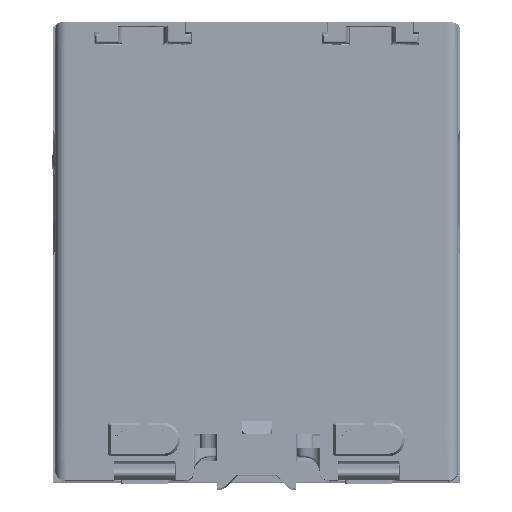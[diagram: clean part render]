
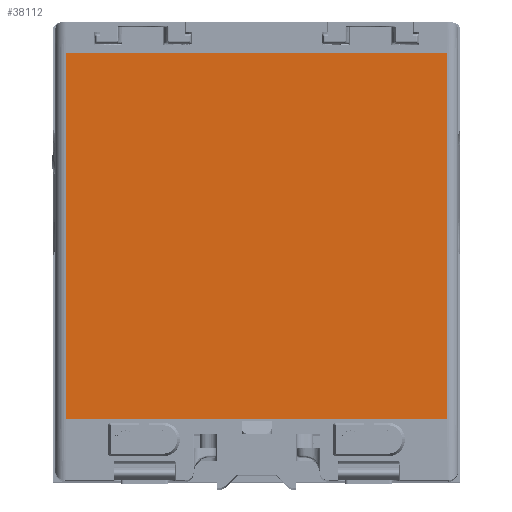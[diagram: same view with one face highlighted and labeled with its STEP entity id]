
A CAD part, top view. The second image highlights one B-rep face of the part: STEP entity #38112.
In plain terms, the highlighted planar face has unit normal (0, 0, 1) as drawn and (1, 0, 0) by its records, which use the part's own axes.
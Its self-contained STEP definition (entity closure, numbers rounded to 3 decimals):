
#306 = EDGE_CURVE ( 'NONE', #113479, #41629, #35973, .T. ) ;
#770 = LINE ( 'NONE', #118629, #49717 ) ;
#2659 = CARTESIAN_POINT ( 'NONE',  ( 27.371, 71., -37. ) ) ;
#12638 = ORIENTED_EDGE ( 'NONE', *, *, #43142, .F. ) ;
#14580 = FACE_OUTER_BOUND ( 'NONE', #87414, .T. ) ;
#14975 = VECTOR ( 'NONE', #100861, 1000. ) ;
#23978 = CARTESIAN_POINT ( 'NONE',  ( 27.371, 0., -37. ) ) ;
#31767 = ORIENTED_EDGE ( 'NONE', *, *, #86709, .T. ) ;
#35973 = LINE ( 'NONE', #2659, #127164 ) ;
#36399 = DIRECTION ( 'NONE',  ( 0., 0., -1. ) ) ;
#36759 = DIRECTION ( 'NONE',  ( 0., -1., 0. ) ) ;
#38112 = ADVANCED_FACE ( 'NONE', ( #14580 ), #142555, .F. ) ;
#41525 = CARTESIAN_POINT ( 'NONE',  ( 27.371, 0., 37. ) ) ;
#41629 = VERTEX_POINT ( 'NONE', #23978 ) ;
#43142 = EDGE_CURVE ( 'NONE', #103836, #113479, #770, .T. ) ;
#49717 = VECTOR ( 'NONE', #36399, 1000. ) ;
#61090 = CARTESIAN_POINT ( 'NONE',  ( 27.371, 71., -37. ) ) ;
#74438 = CARTESIAN_POINT ( 'NONE',  ( 27.371, 71., 37. ) ) ;
#79717 = ORIENTED_EDGE ( 'NONE', *, *, #93289, .T. ) ;
#79939 = DIRECTION ( 'NONE',  ( 0., -1., 0. ) ) ;
#86709 = EDGE_CURVE ( 'NONE', #103836, #129685, #115637, .T. ) ;
#87414 = EDGE_LOOP ( 'NONE', ( #79717, #101544, #12638, #31767 ) ) ;
#88335 = CARTESIAN_POINT ( 'NONE',  ( 27.371, 71., -37. ) ) ;
#89917 = LINE ( 'NONE', #90694, #14975 ) ;
#90694 = CARTESIAN_POINT ( 'NONE',  ( 27.371, 0., -37. ) ) ;
#93289 = EDGE_CURVE ( 'NONE', #129685, #41629, #89917, .T. ) ;
#100861 = DIRECTION ( 'NONE',  ( 0., 0., -1. ) ) ;
#101544 = ORIENTED_EDGE ( 'NONE', *, *, #306, .F. ) ;
#101729 = CARTESIAN_POINT ( 'NONE',  ( 27.371, 71., 37. ) ) ;
#103836 = VERTEX_POINT ( 'NONE', #74438 ) ;
#105587 = VECTOR ( 'NONE', #79939, 1000. ) ;
#106893 = DIRECTION ( 'NONE',  ( 0., 0., 1. ) ) ;
#113479 = VERTEX_POINT ( 'NONE', #88335 ) ;
#115637 = LINE ( 'NONE', #101729, #105587 ) ;
#118629 = CARTESIAN_POINT ( 'NONE',  ( 27.371, 71., -37. ) ) ;
#127164 = VECTOR ( 'NONE', #36759, 1000. ) ;
#129685 = VERTEX_POINT ( 'NONE', #41525 ) ;
#131177 = AXIS2_PLACEMENT_3D ( 'NONE', #61090, #131669, #106893 ) ;
#131669 = DIRECTION ( 'NONE',  ( -1., 0., 0. ) ) ;
#142555 = PLANE ( 'NONE',  #131177 ) ;
